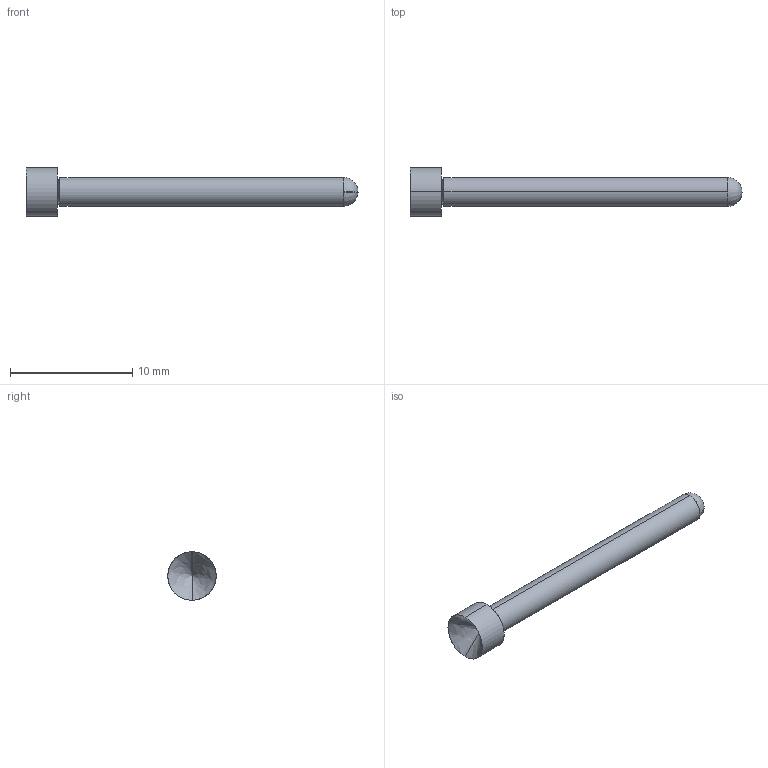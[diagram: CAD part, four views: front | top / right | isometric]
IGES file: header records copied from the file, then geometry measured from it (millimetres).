
Start section: SolidWorks IGES file using analytic representation for surfaces
Global section: file name: Z:\probe solid model mockups\Solidworks models\IGES Files\HCP-14 IGES files\HCP-14A Full.IGS; native system: SolidWorks 2006 by SolidWorks Corporation; preprocessor: SolidWorks 2006 by SolidWorks Corporation; author: tsakatani; date: 071202.143501; units: inch
Bounding box: 27.18 x 3.96 x 3.96 mm (x, y, z)
Surface area: 243.6 mm2 (no closed solid volume)
Topology: 0 solids, 0 shells, 11 faces, 92 edges, 88 vertices
Faces by surface type: revolution 10, bspline 1
